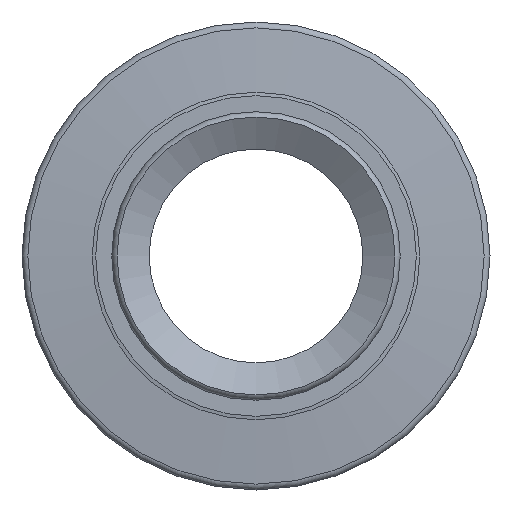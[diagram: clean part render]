
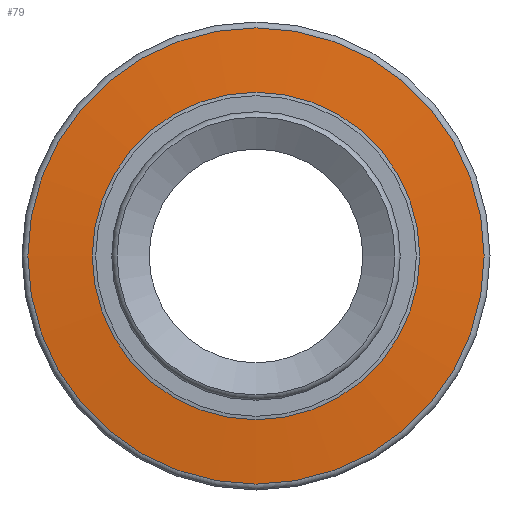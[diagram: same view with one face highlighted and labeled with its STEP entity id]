
A CAD part, front view. The second image highlights one B-rep face of the part: STEP entity #79.
In plain terms, the highlighted conical face has half-angle 85 degrees and reference radius 9.169 mm.
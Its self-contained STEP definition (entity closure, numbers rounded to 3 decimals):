
#79=ADVANCED_FACE('',(#434,#436),#438,.T.);
#434=FACE_OUTER_BOUND('',#435,.T.);
#435=EDGE_LOOP('',(#866));
#436=FACE_OUTER_BOUND('',#437,.T.);
#437=EDGE_LOOP('',(#867));
#438=CONICAL_SURFACE('',#439,9.169,1.484);
#439=AXIS2_PLACEMENT_3D('',#440,#441,#442);
#440=CARTESIAN_POINT('',(0.,-6.156,0.));
#441=DIRECTION('',(0.,1.,0.));
#442=DIRECTION('',(-1.,0.,0.));
#866=ORIENTED_EDGE('',*,*,#994,.F.);
#867=ORIENTED_EDGE('',*,*,#996,.T.);
#994=EDGE_CURVE('',#1116,#1116,#1117,.F.);
#996=EDGE_CURVE('',#1120,#1120,#1121,.F.);
#1116=VERTEX_POINT('',#1404);
#1117=CIRCLE('',#1405,7.663);
#1120=VERTEX_POINT('',#1414);
#1121=CIRCLE('',#1415,10.676);
#1404=CARTESIAN_POINT('',(-7.663,-6.288,0.));
#1405=AXIS2_PLACEMENT_3D('',#1406,#1407,#1408);
#1406=CARTESIAN_POINT('',(0.,-6.288,0.));
#1407=DIRECTION('',(0.,1.,0.));
#1408=DIRECTION('',(-1.,0.,0.));
#1414=CARTESIAN_POINT('',(-10.676,-6.024,0.));
#1415=AXIS2_PLACEMENT_3D('',#1416,#1417,#1418);
#1416=CARTESIAN_POINT('',(0.,-6.024,0.));
#1417=DIRECTION('',(0.,1.,0.));
#1418=DIRECTION('',(-1.,0.,0.));
